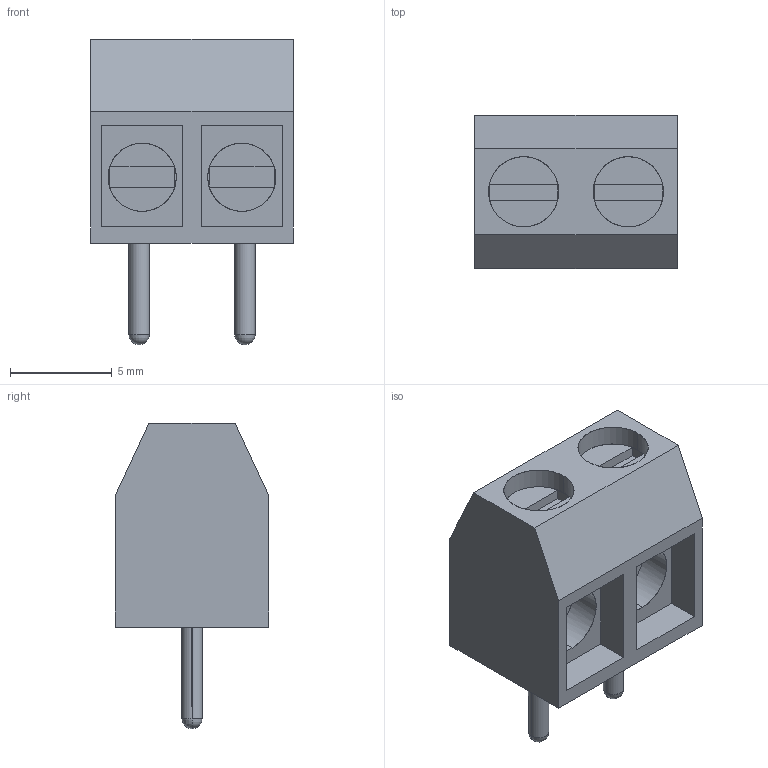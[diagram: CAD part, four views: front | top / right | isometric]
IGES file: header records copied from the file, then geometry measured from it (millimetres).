
Start section: SolidWorks IGES file using analytic representation for surfaces
Global section: file name: C:\Users\AndreBernot\Downloads\K-RACER-L_3D_SW\K-RACER-L_3D_SW\BORNIER 2 bleu.IGS; native system: SolidWorks 2015; preprocessor: SolidWorks 2015; author: AndreBernot; date: 170922.150902; units: millimetre
Bounding box: 9.97 x 7.55 x 15.02 mm (x, y, z)
Surface area: 623.7 mm2 (no closed solid volume)
Topology: 0 solids, 0 shells, 70 faces, 554 edges, 550 vertices
Faces by surface type: bspline 54, revolution 16
